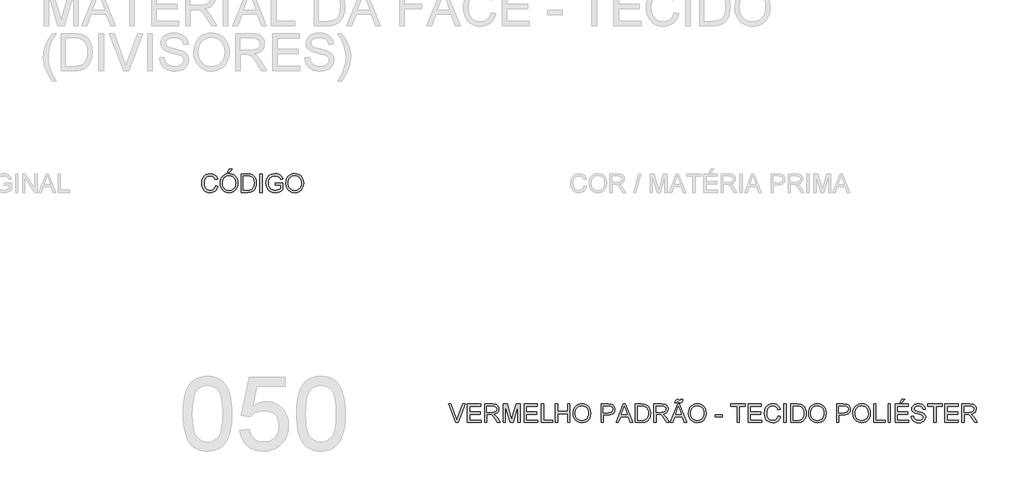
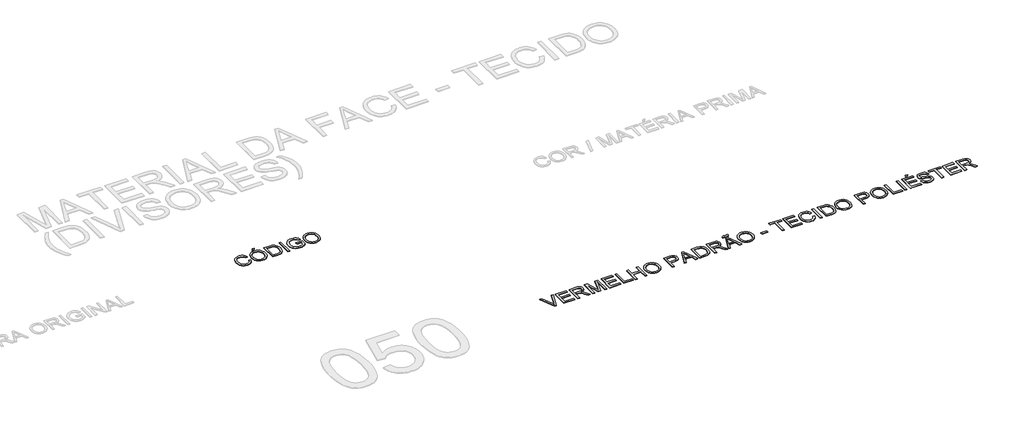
# One storey, part 54 of 67: 2 proxies.
"""IFC4 building model written with IfcOpenShell, lengths in millimetres."""

import ifcopenshell
import ifcopenshell.guid

model = None  # the IFC model being written
_history = None  # IfcOwnerHistory: only IFC2X3 demands one
_inside = {}  # id of a spatial element -> (the spatial element, [elements in it])
_under = {}  # id of a project, library or spatial element -> (it, [spatial elements below it])
_declared = {}  # id of a project -> (the project, [libraries it declares])
_typed = {}  # id of a type object -> (the type object, [elements of that type])
_made_of = {}  # id of a material, layer set ... -> (it, [elements and type objects made of it])


def new_model(schema):
    """Start an empty IFC model of exactly this schema.

    Asked for "IFC4X3", IfcOpenShell would pick the latest addendum, in which some entities
    have other attributes; the version numbers below select the first issue.
    IFC2X3 requires an IfcOwnerHistory on every rooted entity: one is made here for all.
    """
    global model, _history
    if schema == "IFC4X3":
        model = ifcopenshell.file(schema_version=(4, 3, 0, 0))
    else:
        model = ifcopenshell.file(schema=schema)
    _inside.clear()
    _under.clear()
    _declared.clear()
    _typed.clear()
    _made_of.clear()
    _history = None
    if model.schema == "IFC2X3":
        org = make("IfcOrganization", Name="unknown")
        user = make(
            "IfcPersonAndOrganization",
            ThePerson=make("IfcPerson", FamilyName="unknown"),
            TheOrganization=org,
        )
        app = make(
            "IfcApplication",
            ApplicationDeveloper=org,
            Version="unknown",
            ApplicationFullName="unknown",
            ApplicationIdentifier="unknown",
        )
        _history = make(
            "IfcOwnerHistory",
            OwningUser=user,
            OwningApplication=app,
            ChangeAction="ADDED",
            CreationDate=0,
        )
    return model


def make(cls, **values):
    """One entity of the class cls with the attributes given. An attribute that is None is left unset."""
    return model.create_entity(
        cls, **{name: value for name, value in values.items() if value is not None}
    )


def rooted(cls, **values):
    """An entity with a GlobalId (a new one), such as an element, a storey or a relation."""
    return make(cls, GlobalId=ifcopenshell.guid.new(), OwnerHistory=_history, **values)


def si_unit(unit_type, name, prefix=None):
    """IfcSIUnit, for example si_unit("LENGTHUNIT", "METRE", prefix="MILLI")."""
    return make("IfcSIUnit", UnitType=unit_type, Prefix=prefix, Name=name)


def assignment(units):
    """IfcUnitAssignment: the units of a project."""
    return None if units is None else make("IfcUnitAssignment", Units=units)


def point(xyz):
    """IfcCartesianPoint."""
    return None if xyz is None else make("IfcCartesianPoint", Coordinates=xyz)


def direction(xyz):
    """IfcDirection."""
    return None if xyz is None else make("IfcDirection", DirectionRatios=xyz)


def frame(location, z_axis=None, x_axis=None):
    """IfcAxis2Placement3D, a coordinate frame: its origin and axes. An axis left out is left unset."""
    return make(
        "IfcAxis2Placement3D",
        Location=point(location),
        Axis=direction(z_axis),
        RefDirection=direction(x_axis),
    )


def origin():
    """The frame at (0, 0, 0) with its axes left unset."""
    return frame((0.0, 0.0, 0.0))


def origin_with_axes():
    """The frame at (0, 0, 0) with the z axis (0, 0, 1) and the x axis (1, 0, 0) written out."""
    return frame((0.0, 0.0, 0.0), z_axis=(0.0, 0.0, 1.0), x_axis=(1.0, 0.0, 0.0))


def place(relative_to, where):
    """IfcLocalPlacement: puts the frame where relative to a parent placement (None: the world)."""
    return make(
        "IfcLocalPlacement", PlacementRelTo=relative_to, RelativePlacement=where
    )


def context(
    kind, dimensions, precision=None, world=None, true_north=None, identifier=None
):
    """IfcGeometricRepresentationContext, for example the 3D "Model" context."""
    return make(
        "IfcGeometricRepresentationContext",
        ContextIdentifier=identifier,
        ContextType=kind,
        CoordinateSpaceDimension=dimensions,
        Precision=precision,
        WorldCoordinateSystem=world,
        TrueNorth=true_north,
    )


def project(units=None, contexts=None):
    """IfcProject with its units and contexts."""
    return rooted(
        "IfcProject",
        Name="project",
        RepresentationContexts=contexts,
        UnitsInContext=assignment(units),
    )


def spatial(cls, under=None, at=None, **own):
    """A site, building, storey or space (cls), placed at a placement, below another one or the project."""
    s = rooted(cls, ObjectPlacement=at, **own)
    if under is not None:
        _under.setdefault(under.id(), (under, []))[1].append(s)
    return s


def polyline(points):
    """IfcPolyline through the points."""
    return make("IfcPolyline", Points=[point(p) for p in points])


def outline(outer, holes=None, kind="AREA"):
    """IfcArbitraryClosedProfileDef: a profile drawn as a closed curve; with holes, ...WithVoids."""
    if holes is None:
        return make("IfcArbitraryClosedProfileDef", ProfileType=kind, OuterCurve=outer)
    return make(
        "IfcArbitraryProfileDefWithVoids",
        ProfileType=kind,
        OuterCurve=outer,
        InnerCurves=holes,
    )


def extrude(swept, where, along, depth):
    """IfcExtrudedAreaSolid: the profile swept, set in the frame where, extruded along a direction by depth."""
    return make(
        "IfcExtrudedAreaSolid",
        SweptArea=swept,
        Position=where,
        ExtrudedDirection=direction(along),
        Depth=depth,
    )


def shape(context_of_items, identifier, shape_type, items):
    """IfcShapeRepresentation: the items that make up one representation, for example the "Body"."""
    return make(
        "IfcShapeRepresentation",
        ContextOfItems=context_of_items,
        RepresentationIdentifier=identifier,
        RepresentationType=shape_type,
        Items=items,
    )


def made_of(thing, what):
    """Note that an element or type object is made of a material, layer set ...; save() writes the relation."""
    if what is not None:
        _made_of.setdefault(what.id(), (what, []))[1].append(thing)
    return thing


def element(
    cls,
    number,
    at=None,
    inside=None,
    cuts=None,
    type_object=None,
    material=None,
    context=None,
    identifier="Body",
    shape_type=None,
    held_by="IfcProductDefinitionShape",
    body=None,
    shapes=None,
    **own,
):
    """One element of the class cls, such as IfcWall. Its Tag is "e" and its number.

    at: its placement. inside: the storey or other place that contains it. cuts: it is an
    opening in that element (IfcRelVoidsElement). A single representation is given by context,
    identifier, shape_type and body (its items); several are given by shapes. held_by: the class
    of the entity that holds the representations. save() writes the other relations.
    """
    e = rooted(cls, Tag="e%d" % number, ObjectPlacement=at, **own)
    if body is not None:
        shapes = [shape(context, identifier, shape_type, body)]
    if shapes is not None:
        e.Representation = make(held_by, Representations=shapes)
    if inside is not None:
        _inside.setdefault(inside.id(), (inside, []))[1].append(e)
    if cuts is not None:
        rooted(
            "IfcRelVoidsElement", RelatingBuildingElement=cuts, RelatedOpeningElement=e
        )
    if type_object is not None:
        _typed.setdefault(type_object.id(), (type_object, []))[1].append(e)
    return made_of(e, material)


def aggregate(whole, parts):
    """IfcRelAggregates: a whole, such as a stair, and the parts it consists of."""
    return rooted("IfcRelAggregates", RelatingObject=whole, RelatedObjects=parts)


def save(model, path):
    """Write the relations noted so far, then the file.

    IfcRelAggregates (storeys below a building ...), IfcRelContainedInSpatialStructure (elements
    in a storey), IfcRelDefinesByType, IfcRelAssociatesMaterial and IfcRelDeclares: one each for
    every whole, place, type object, material and project.
    """
    for whole, parts in _under.values():
        aggregate(whole, parts)
    for where, things in _inside.values():
        rooted(
            "IfcRelContainedInSpatialStructure",
            RelatedElements=things,
            RelatingStructure=where,
        )
    for kind, things in _typed.values():
        rooted("IfcRelDefinesByType", RelatedObjects=things, RelatingType=kind)
    for what, things in _made_of.values():
        rooted("IfcRelAssociatesMaterial", RelatedObjects=things, RelatingMaterial=what)
    for by, libraries in _declared.values():
        rooted("IfcRelDeclares", RelatingContext=by, RelatedDefinitions=libraries)
    model.write(path)


model = new_model("IFC4")

# Units and contexts
model_context = context("Model", 3, world=origin())
ifc_project = project(units=[si_unit("LENGTHUNIT", "METRE", prefix="MILLI")], contexts=[model_context])

# Site, building, storey
site = spatial("IfcSite", under=ifc_project)
building = spatial("IfcBuilding", under=site)
storey = spatial("IfcBuildingStorey", under=building, Name="Marelli - Linha COLAB - Planta Baixa", Elevation=0.0)

# Proxies
placement = place(None, origin())
element("IfcBuildingElementProxy", 1, Name="300mm Arial", ObjectType="300mm Arial", at=placement, inside=storey, context=model_context, shape_type="SweptSolid", body=[
    extrude(outline(polyline([(299.1753537, -23673.4390831), (336.84647, -23683.1511677), (329.3922611, -23706.5783531), (319.4640457, -23727.0486868), (307.061824, -23744.5621691), (292.1855958, -23759.1187997), (275.1710535, -23770.5622291), (256.3538895, -23778.7361071), (235.7341036, -23783.640434), (213.311696, -23785.2752096), (169.616512, -23780.3271968), (134.9160429, -23765.4831583), (108.3181746, -23741.2581289), (88.9307935, -23708.1671434), (77.0941903, -23669.2636224), (73.1486559, -23627.6009865), (77.6092251, -23583.6574821), (90.9909326, -23545.7104543), (112.5948028, -23514.9647166), (141.7218598, -23492.6250824), (176.2659791, -23479.0226457), (214.1210364, -23474.4885001), (255.4249874, -23480.3562179), (273.3937236, -23487.6908652), (289.5736336, -23497.9593714), (303.698003, -23510.8904235), (315.5001172, -23526.2127086), (332.1375805, -23564.0309777), (294.4664642, -23573.0072984), (281.4066533, -23545.5357104), (263.5643766, -23526.6909552), (240.7189047, -23515.7924511), (212.6495084, -23512.1596164), (180.294287, -23516.1879242), (153.7148128, -23528.2728478), (133.5456824, -23547.1451941), (120.4214922, -23571.5357704), (113.2202022, -23599.1085259), (110.8197722, -23627.5274101), (113.6616606, -23662.3290468), (122.1873258, -23692.421794), (136.7186646, -23716.6560205), (157.5775738, -23733.8820949), (182.5843524, -23744.1735937), (209.5592997, -23747.6040933), (241.0040132, -23742.931992), (267.2064083, -23728.9156879), (286.9892626, -23705.702334), (299.1753537, -23673.4390831)])), origin_with_axes(), (0.0, 0.0, 1.0), 10.0),
    extrude(outline(polyline([(374.5175863, -23633.8549804), (377.0283809, -23598.5061192), (384.5607648, -23567.213157), (397.1147379, -23539.9760937), (414.6903002, -23516.7949295), (436.2343895, -23498.2858666), (460.6939437, -23485.0651074), (488.0689626, -23477.1326519), (518.3594464, -23474.4885001), (557.8883668, -23479.454907), (593.333797, -23494.3541278), (622.7643567, -23518.1376988), (644.2486652, -23549.7571563), (657.3820524, -23587.68579), (661.7598481, -23630.3968896), (657.1521262, -23673.6782064), (643.3289602, -23712.140269), (621.0537054, -23743.8149087), (591.0897169, -23766.733957), (555.9477893, -23780.6398965), (518.1387172, -23785.2752096), (478.0027916, -23780.1524528), (442.3550262, -23764.7841825), (412.998043, -23740.5591531), (391.7344637, -23708.8661192), (378.8218057, -23672.3998164), (374.5175863, -23633.8549804)]), holes=[polyline([(412.1887026, -23634.2228624), (414.0717986, -23659.1974513), (419.7210865, -23681.3669401), (429.1365663, -23700.7313286), (442.318238, -23717.2906169), (458.3417982, -23730.5527628), (476.2829432, -23740.0257242), (496.1416732, -23745.709501), (517.917988, -23747.6040933), (540.0667834, -23745.6911069), (560.1600381, -23739.9521478), (578.1977522, -23730.3872159), (594.1799256, -23716.9963113), (607.2650283, -23700.0875351), (616.6115303, -23679.9689885), (622.2194315, -23656.6406715), (624.0887318, -23630.102584), (620.8881585, -23596.7540812), (611.2864384, -23567.9305269), (595.531892, -23544.358488), (573.8728395, -23526.7645316), (547.7440208, -23515.8108452), (518.5801756, -23512.1596164), (497.5603181, -23513.9185522), (478.0579739, -23519.1953595), (460.0731428, -23527.9900385), (443.605825, -23540.302589), (429.860834, -23556.7262208), (420.0429832, -23577.8541437), (414.1522728, -23603.6863575), (412.1887026, -23634.2228624)])]), origin_with_axes(), (0.0, 0.0, 1.0), 10.0),
    extrude(outline(polyline([(492.2398248, -23460.3618315), (520.493162, -23403.855157), (567.5820574, -23403.855157), (520.493162, -23460.3618315), (492.2398248, -23460.3618315)])), origin_with_axes(), (0.0, 0.0, 1.0), 10.0),
    extrude(outline(polyline([(713.5576331, -23780.5663201), (713.5576331, -23479.1973896), (817.5210849, -23479.1973896), (871.3054326, -23483.5383972), (895.3281269, -23491.9077126), (915.5984248, -23505.0962821), (936.4389398, -23528.0521186), (951.2829783, -23556.5997614), (960.1673285, -23590.1873876), (963.1287786, -23628.2631741), (961.1238217, -23660.6091985), (955.1089511, -23689.0740679), (945.9486894, -23713.3082943), (934.5075594, -23732.9623899), (921.3373839, -23748.477813), (906.9899861, -23760.2960221), (890.5180698, -23769.0608107), (870.9743388, -23775.4159721), (822.52428, -23780.5663201), (713.5576331, -23780.5663201)]), holes=[polyline([(751.2287494, -23742.8952038), (817.8889669, -23742.8952038), (845.4617224, -23741.5340404), (866.3758139, -23737.4505502), (882.1579515, -23730.8838566), (894.3348455, -23722.0730828), (907.4222475, -23705.7667134), (917.2538938, -23684.6594839), (923.4067202, -23658.6594239), (925.4576623, -23627.6745629), (921.4385515, -23586.6189322), (909.3812191, -23556.3054558), (891.5665335, -23535.4833349), (870.275363, -23522.9017706), (848.6071135, -23518.3768221), (816.8588973, -23516.8685059), (751.2287494, -23516.8685059), (751.2287494, -23742.8952038)])]), origin_with_axes(), (0.0, 0.0, 1.0), 10.0),
    extrude(outline(polyline([(1019.6354531, -23780.5663201), (1019.6354531, -23479.1973896), (1057.3065694, -23479.1973896), (1057.3065694, -23780.5663201), (1019.6354531, -23780.5663201)])), origin_with_axes(), (0.0, 0.0, 1.0), 10.0),
    extrude(outline(polyline([(1273.9154881, -23662.8440816), (1273.9154881, -23625.1729653), (1396.3466161, -23625.1729653), (1396.3466161, -23737.8184322), (1366.5941598, -23758.5117945), (1335.9036043, -23773.355833), (1304.3485262, -23782.2953654), (1272.0025017, -23785.2752096), (1229.7420575, -23780.5387289), (1191.5467094, -23766.3292869), (1159.8168873, -23743.1435241), (1136.9530213, -23711.4780814), (1123.1298553, -23673.4942654), (1118.5221334, -23631.3533828), (1123.1114612, -23588.9089976), (1136.8794449, -23549.4260625), (1159.2558673, -23516.3074859), (1189.6705112, -23492.9561762), (1226.7162281, -23479.1054191), (1268.9858694, -23474.4885001), (1300.0167157, -23477.1648416), (1327.920565, -23485.1938661), (1351.4190275, -23497.9961596), (1369.2337131, -23514.9923078), (1382.4130855, -23537.0008481), (1392.0056086, -23564.8403181), (1357.2775482, -23574.6259792), (1349.5244352, -23554.7695485), (1340.0974591, -23539.7875542), (1327.6262594, -23528.493577), (1310.7404758, -23519.7011973), (1290.6081337, -23514.0450116), (1268.3972582, -23512.1596164), (1242.3971982, -23514.1921644), (1220.1679286, -23520.2898085), (1201.792223, -23529.6891935), (1187.3528547, -23541.6269642), (1167.9654735, -23570.6528536), (1159.1363056, -23599.0901318), (1156.1932497, -23629.8082784), (1159.7341139, -23665.8331228), (1170.3567065, -23695.4752146), (1187.7391307, -23718.5230216), (1211.5594899, -23734.7650117), (1239.4357481, -23744.3943229), (1268.9858694, -23747.6040933), (1295.0778999, -23745.1852692), (1320.5261369, -23737.9287968), (1342.6266478, -23727.9316036), (1358.6754998, -23717.2906169), (1358.6754998, -23662.8440816), (1273.9154881, -23662.8440816)])), origin_with_axes(), (0.0, 0.0, 1.0), 10.0),
    extrude(outline(polyline([(1443.4355115, -23633.8549804), (1445.9463061, -23598.5061192), (1453.47869, -23567.213157), (1466.0326631, -23539.9760937), (1483.6082254, -23516.7949295), (1505.1523147, -23498.2858666), (1529.6118689, -23485.0651074), (1556.9868878, -23477.1326519), (1587.2773716, -23474.4885001), (1626.806292, -23479.454907), (1662.2517222, -23494.3541278), (1691.6822818, -23518.1376988), (1713.1665904, -23549.7571563), (1726.2999776, -23587.68579), (1730.6777733, -23630.3968896), (1726.0700513, -23673.6782064), (1712.2468854, -23712.140269), (1689.9716306, -23743.8149087), (1660.0076421, -23766.733957), (1624.8657145, -23780.6398965), (1587.0566424, -23785.2752096), (1546.9207167, -23780.1524528), (1511.2729514, -23764.7841825), (1481.9159682, -23740.5591531), (1460.6523889, -23708.8661192), (1447.7397308, -23672.3998164), (1443.4355115, -23633.8549804)]), holes=[polyline([(1481.1066278, -23634.2228624), (1482.9897238, -23659.1974513), (1488.6390117, -23681.3669401), (1498.0544915, -23700.7313286), (1511.2361632, -23717.2906169), (1527.2597234, -23730.5527628), (1545.2008684, -23740.0257242), (1565.0595984, -23745.709501), (1586.8359132, -23747.6040933), (1608.9847086, -23745.6911069), (1629.0779633, -23739.9521478), (1647.1156774, -23730.3872159), (1663.0978508, -23716.9963113), (1676.1829535, -23700.0875351), (1685.5294555, -23679.9689885), (1691.1373566, -23656.6406715), (1693.006657, -23630.102584), (1689.8060837, -23596.7540812), (1680.2043636, -23567.9305269), (1664.4498171, -23544.358488), (1642.7907647, -23526.7645316), (1616.661946, -23515.8108452), (1587.4981008, -23512.1596164), (1566.4782433, -23513.9185522), (1546.975899, -23519.1953595), (1528.991068, -23527.9900385), (1512.5237502, -23540.302589), (1498.7787591, -23556.7262208), (1488.9609084, -23577.8541437), (1483.070198, -23603.6863575), (1481.1066278, -23634.2228624)])]), origin_with_axes(), (0.0, 0.0, 1.0), 10.0),
])
element("IfcBuildingElementProxy", 2, Name="300mm Arial", ObjectType="300mm Arial", at=placement, inside=storey, context=model_context, shape_type="SweptSolid", body=[
    extrude(outline(polyline([(4210.5600671, -27530.5663201), (4090.6305367, -27229.1973896), (4130.9504034, -27229.1973896), (4211.2222547, -27446.3213432), (4227.4826389, -27495.2496485), (4243.5222939, -27446.3213432), (4324.0148745, -27229.1973896), (4364.3347411, -27229.1973896), (4249.4819822, -27530.5663201), (4210.5600671, -27530.5663201)])), origin_with_axes(), (0.0, 0.0, 1.0), 10.0),
    extrude(outline(polyline([(4399.3571071, -27530.5663201), (4399.3571071, -27229.1973896), (4615.9660258, -27229.1973896), (4615.9660258, -27266.8685059), (4437.0282234, -27266.8685059), (4437.0282234, -27356.3374072), (4606.5482468, -27356.3374072), (4606.5482468, -27394.0085235), (4437.0282234, -27394.0085235), (4437.0282234, -27492.8952038), (4620.6749154, -27492.8952038), (4620.6749154, -27530.5663201), (4399.3571071, -27530.5663201)])), origin_with_axes(), (0.0, 0.0, 1.0), 10.0),
    extrude(outline(polyline([(4677.1815898, -27530.5663201), (4677.1815898, -27229.1973896), (4807.0439341, -27229.1973896), (4841.9467384, -27231.2299376), (4867.3397931, -27237.3275817), (4885.8994398, -27248.5847708), (4900.3020199, -27266.0959537), (4909.545055, -27287.8101885), (4912.6260667, -27311.6765329), (4907.5217041, -27341.3646099), (4892.208616, -27365.9759154), (4880.6088369, -27376.0052983), (4866.2269501, -27384.0205273), (4829.1168538, -27394.0085235), (4850.527586, -27410.1217548), (4881.0617916, -27448.8965171), (4931.3144721, -27530.5663201), (4887.5365147, -27530.5663201), (4848.320294, -27468.0999573), (4819.9933804, -27426.750021), (4800.0909644, -27407.2154871), (4782.1751113, -27400.0417882), (4760.3229207, -27398.717413), (4714.8527061, -27398.717413), (4714.8527061, -27530.5663201), (4677.1815898, -27530.5663201)]), holes=[polyline([(4714.8527061, -27361.0462967), (4799.1712594, -27361.0462967), (4823.3870918, -27359.7127245), (4842.1766647, -27355.7120078), (4856.3217274, -27348.7774322), (4866.6040291, -27338.6422832), (4872.8672201, -27326.3826157), (4874.9549504, -27313.0744845), (4870.9726278, -27294.6987789), (4859.02566, -27279.8915286), (4838.4702536, -27270.1242616), (4808.6626149, -27266.8685059), (4714.8527061, -27266.8685059), (4714.8527061, -27361.0462967)])]), origin_with_axes(), (0.0, 0.0, 1.0), 10.0),
    extrude(outline(polyline([(4978.5505203, -27530.5663201), (4978.5505203, -27229.1973896), (5043.3713278, -27229.1973896), (5105.0283502, -27441.6124536), (5117.4627617, -27485.9790223), (5130.9272427, -27437.9336337), (5191.5541955, -27229.1973896), (5256.375003, -27229.1973896), (5256.375003, -27530.5663201), (5218.7038867, -27530.5663201), (5218.7038867, -27266.8685059), (5142.9937721, -27530.5663201), (5091.9317512, -27530.5663201), (5016.2216366, -27266.8685059), (5016.2216366, -27530.5663201), (4978.5505203, -27530.5663201)])), origin_with_axes(), (0.0, 0.0, 1.0), 10.0),
    extrude(outline(polyline([(5322.2994566, -27530.5663201), (5322.2994566, -27229.1973896), (5538.9083753, -27229.1973896), (5538.9083753, -27266.8685059), (5359.9705729, -27266.8685059), (5359.9705729, -27356.3374072), (5529.4905963, -27356.3374072), (5529.4905963, -27394.0085235), (5359.9705729, -27394.0085235), (5359.9705729, -27492.8952038), (5543.6172649, -27492.8952038), (5543.6172649, -27530.5663201), (5322.2994566, -27530.5663201)])), origin_with_axes(), (0.0, 0.0, 1.0), 10.0),
    extrude(outline(polyline([(5600.1239393, -27530.5663201), (5600.1239393, -27229.1973896), (5637.7950556, -27229.1973896), (5637.7950556, -27492.8952038), (5788.4795209, -27492.8952038), (5788.4795209, -27530.5663201), (5600.1239393, -27530.5663201)])), origin_with_axes(), (0.0, 0.0, 1.0), 10.0),
    extrude(outline(polyline([(5830.8595267, -27530.5663201), (5830.8595267, -27229.1973896), (5868.530643, -27229.1973896), (5868.530643, -27351.6285176), (6028.6328873, -27351.6285176), (6028.6328873, -27229.1973896), (6066.3040036, -27229.1973896), (6066.3040036, -27530.5663201), (6028.6328873, -27530.5663201), (6028.6328873, -27389.2996339), (5868.530643, -27389.2996339), (5868.530643, -27530.5663201), (5830.8595267, -27530.5663201)])), origin_with_axes(), (0.0, 0.0, 1.0), 10.0),
    extrude(outline(polyline([(6118.1017885, -27383.8549804), (6120.6125832, -27348.5061192), (6128.144967, -27317.213157), (6140.6989401, -27289.9760937), (6158.2745024, -27266.7949295), (6179.8185918, -27248.2858666), (6204.2781459, -27235.0651074), (6231.6531649, -27227.1326519), (6261.9436487, -27224.4885001), (6301.472569, -27229.454907), (6336.9179993, -27244.3541278), (6366.3485589, -27268.1376988), (6387.8328674, -27299.7571563), (6400.9662546, -27337.68579), (6405.3440504, -27380.3968896), (6400.7363284, -27423.6782064), (6386.9131624, -27462.140269), (6364.6379076, -27493.8149087), (6334.6739191, -27516.733957), (6299.5319915, -27530.6398965), (6261.7229195, -27535.2752096), (6221.5869938, -27530.1524528), (6185.9392284, -27514.7841825), (6156.5822452, -27490.5591531), (6135.3186659, -27458.8661192), (6122.4060079, -27422.3998164), (6118.1017885, -27383.8549804)]), holes=[polyline([(6155.7729048, -27384.2228624), (6157.6560008, -27409.1974513), (6163.3052887, -27431.3669401), (6172.7207685, -27450.7313286), (6185.9024403, -27467.2906169), (6201.9260004, -27480.5527628), (6219.8671455, -27490.0257242), (6239.7258754, -27495.709501), (6261.5021903, -27497.6040933), (6283.6509856, -27495.6911069), (6303.7442404, -27489.9521478), (6321.7819544, -27480.3872159), (6337.7641279, -27466.9963113), (6350.8492306, -27450.0875351), (6360.1957325, -27429.9689885), (6365.8036337, -27406.6406715), (6367.6729341, -27380.102584), (6364.4723607, -27346.7540812), (6354.8706406, -27317.9305269), (6339.1160942, -27294.358488), (6317.4570417, -27276.7645316), (6291.328223, -27265.8108452), (6262.1643779, -27262.1596164), (6241.1445204, -27263.9185522), (6221.6421761, -27269.1953595), (6203.657345, -27277.9900385), (6187.1900272, -27290.302589), (6173.4450362, -27306.7262208), (6163.6271854, -27327.8541437), (6157.736475, -27353.6863575), (6155.7729048, -27384.2228624)])]), origin_with_axes(), (0.0, 0.0, 1.0), 10.0),
    extrude(outline(polyline([(6574.8640738, -27530.5663201), (6574.8640738, -27229.1973896), (6686.5530475, -27229.1973896), (6731.5818037, -27232.0668692), (6751.6589636, -27237.4287493), (6768.1860622, -27246.1567496), (6781.4941934, -27258.6463433), (6791.9144509, -27275.2930036), (6798.6466914, -27294.9287051), (6800.8907716, -27316.3854225), (6799.3755576, -27334.8852883), (6794.8299157, -27351.9044291), (6787.2538459, -27367.4428449), (6776.6473481, -27381.5005356), (6762.0861189, -27393.1531978), (6742.6458547, -27401.476528), (6718.3265556, -27406.470526), (6689.1282215, -27408.1351921), (6612.5351901, -27408.1351921), (6612.5351901, -27530.5663201), (6574.8640738, -27530.5663201)]), holes=[polyline([(6612.5351901, -27370.4640758), (6691.3355134, -27370.4640758), (6724.7391986, -27367.005985), (6746.8121183, -27356.6317127), (6759.117771, -27339.9850525), (6763.2196553, -27317.7097977), (6760.8008312, -27300.7872259), (6753.5443588, -27286.5134045), (6742.3515491, -27275.7712502), (6728.1237129, -27269.4436799), (6690.4525966, -27266.8685059), (6612.5351901, -27266.8685059), (6612.5351901, -27370.4640758)])]), origin_with_axes(), (0.0, 0.0, 1.0), 10.0),
    extrude(outline(polyline([(6817.5926142, -27530.5663201), (6937.8900266, -27229.1973896), (6969.9693366, -27229.1973896), (7090.266749, -27530.5663201), (7050.4619171, -27530.5663201), (7015.954586, -27436.3885293), (6891.8312008, -27436.3885293), (6857.397446, -27530.5663201), (6817.5926142, -27530.5663201)]), holes=[polyline([(6905.6635638, -27398.717413), (7002.1957993, -27398.717413), (6975.0461081, -27324.6259792), (6953.9296816, -27266.8685059), (6935.1676998, -27318.1512561), (6905.6635638, -27398.717413)])]), origin_with_axes(), (0.0, 0.0, 1.0), 10.0),
    extrude(outline(polyline([(7130.5130393, -27530.5663201), (7130.5130393, -27229.1973896), (7234.4764911, -27229.1973896), (7288.2608388, -27233.5383972), (7312.2835331, -27241.9077126), (7332.553831, -27255.0962821), (7353.394346, -27278.0521186), (7368.2383845, -27306.5997614), (7377.1227347, -27340.1873876), (7380.0841848, -27378.2631741), (7378.0792279, -27410.6091985), (7372.0643573, -27439.0740679), (7362.9040956, -27463.3082943), (7351.4629656, -27482.9623899), (7338.2927901, -27498.477813), (7323.9453923, -27510.2960221), (7307.473476, -27519.0608107), (7287.929745, -27525.4159721), (7239.4796862, -27530.5663201), (7130.5130393, -27530.5663201)]), holes=[polyline([(7168.1841556, -27492.8952038), (7234.8443731, -27492.8952038), (7262.4171286, -27491.5340404), (7283.3312201, -27487.4505502), (7299.1133577, -27480.8838566), (7311.2902517, -27472.0730828), (7324.3776537, -27455.7667134), (7334.2093, -27434.6594839), (7340.3621264, -27408.6594239), (7342.4130685, -27377.6745629), (7338.3939577, -27336.6189322), (7326.3366253, -27306.3054558), (7308.5219397, -27285.4833349), (7287.2307692, -27272.9017706), (7265.5625197, -27268.3768221), (7233.8143035, -27266.8685059), (7168.1841556, -27266.8685059), (7168.1841556, -27492.8952038)])]), origin_with_axes(), (0.0, 0.0, 1.0), 10.0),
    extrude(outline(polyline([(7431.8819697, -27530.5663201), (7431.8819697, -27229.1973896), (7561.744314, -27229.1973896), (7596.6471183, -27231.2299376), (7622.040173, -27237.3275817), (7640.5998197, -27248.5847708), (7655.0023998, -27266.0959537), (7664.2454349, -27287.8101885), (7667.3264466, -27311.6765329), (7662.2220839, -27341.3646099), (7646.9089959, -27365.9759154), (7635.3092167, -27376.0052983), (7620.92733, -27384.0205273), (7583.8172337, -27394.0085235), (7605.2279658, -27410.1217548), (7635.7621714, -27448.8965171), (7686.014852, -27530.5663201), (7642.2368946, -27530.5663201), (7603.0206739, -27468.0999573), (7574.6937602, -27426.750021), (7554.7913443, -27407.2154871), (7536.8754911, -27400.0417882), (7515.0233006, -27398.717413), (7469.553086, -27398.717413), (7469.553086, -27530.5663201), (7431.8819697, -27530.5663201)]), holes=[polyline([(7469.553086, -27361.0462967), (7553.8716393, -27361.0462967), (7578.0874716, -27359.7127245), (7596.8770446, -27355.7120078), (7611.0221073, -27348.7774322), (7621.304409, -27338.6422832), (7627.5676, -27326.3826157), (7629.6553303, -27313.0744845), (7625.6730077, -27294.6987789), (7613.7260399, -27279.8915286), (7593.1706335, -27270.1242616), (7563.3629948, -27266.8685059), (7469.553086, -27266.8685059), (7469.553086, -27361.0462967)])]), origin_with_axes(), (0.0, 0.0, 1.0), 10.0),
    extrude(outline(polyline([(7775.630906, -27210.3618315), (7778.4819915, -27187.2036599), (7787.3295535, -27169.2326244), (7800.6652758, -27157.6995239), (7817.2751479, -27153.855157), (7831.1810873, -27156.8901835), (7847.4414715, -27165.9952628), (7862.6717861, -27172.6907152), (7870.6548254, -27168.9015306), (7874.5175863, -27153.855157), (7907.4798131, -27153.855157), (7904.1964663, -27178.5768271), (7895.5236482, -27196.2351629), (7882.6201873, -27206.8301643), (7866.6449116, -27210.3618315), (7852.6470017, -27207.4923519), (7836.84647, -27198.8839132), (7820.9539678, -27191.5262733), (7811.9776471, -27196.3087393), (7808.5931328, -27210.3618315), (7775.630906, -27210.3618315)])), origin_with_axes(), (0.0, 0.0, 1.0), 10.0),
    extrude(outline(polyline([(7698.1549578, -27530.5663201), (7818.4523702, -27229.1973896), (7850.5316802, -27229.1973896), (7970.8290926, -27530.5663201), (7931.0242608, -27530.5663201), (7896.5169296, -27436.3885293), (7772.3935445, -27436.3885293), (7737.9597897, -27530.5663201), (7698.1549578, -27530.5663201)]), holes=[polyline([(7786.2259075, -27398.717413), (7882.758143, -27398.717413), (7855.6084518, -27324.6259792), (7834.4920252, -27266.8685059), (7815.7300435, -27318.1512561), (7786.2259075, -27398.717413)])]), origin_with_axes(), (0.0, 0.0, 1.0), 10.0),
    extrude(outline(polyline([(7996.9487143, -27383.8549804), (7999.4595089, -27348.5061192), (8006.9918928, -27317.213157), (8019.5458659, -27289.9760937), (8037.1214282, -27266.7949295), (8058.6655175, -27248.2858666), (8083.1250717, -27235.0651074), (8110.5000906, -27227.1326519), (8140.7905744, -27224.4885001), (8180.3194948, -27229.454907), (8215.764925, -27244.3541278), (8245.1954847, -27268.1376988), (8266.6797932, -27299.7571563), (8279.8131804, -27337.68579), (8284.1909761, -27380.3968896), (8279.5832542, -27423.6782064), (8265.7600882, -27462.140269), (8243.4848334, -27493.8149087), (8213.5208449, -27516.733957), (8178.3789173, -27530.6398965), (8140.5698452, -27535.2752096), (8100.4339195, -27530.1524528), (8064.7861542, -27514.7841825), (8035.429171, -27490.5591531), (8014.1655917, -27458.8661192), (8001.2529336, -27422.3998164), (7996.9487143, -27383.8549804)]), holes=[polyline([(8034.6198306, -27384.2228624), (8036.5029266, -27409.1974513), (8042.1522145, -27431.3669401), (8051.5676943, -27450.7313286), (8064.749366, -27467.2906169), (8080.7729262, -27480.5527628), (8098.7140712, -27490.0257242), (8118.5728012, -27495.709501), (8140.349116, -27497.6040933), (8162.4979114, -27495.6911069), (8182.5911661, -27489.9521478), (8200.6288802, -27480.3872159), (8216.6110536, -27466.9963113), (8229.6961563, -27450.0875351), (8239.0426583, -27429.9689885), (8244.6505594, -27406.6406715), (8246.5198598, -27380.102584), (8243.3192865, -27346.7540812), (8233.7175664, -27317.9305269), (8217.96302, -27294.358488), (8196.3039675, -27276.7645316), (8170.1751488, -27265.8108452), (8141.0113036, -27262.1596164), (8119.9914461, -27263.9185522), (8100.4891018, -27269.1953595), (8082.5042708, -27277.9900385), (8066.036953, -27290.302589), (8052.291962, -27306.7262208), (8042.4741112, -27327.8541437), (8036.5834008, -27353.6863575), (8034.6198306, -27384.2228624)])]), origin_with_axes(), (0.0, 0.0, 1.0), 10.0),
    extrude(outline(polyline([(8430.1665518, -27441.0974188), (8430.1665518, -27403.4263025), (8547.8887903, -27403.4263025), (8547.8887903, -27441.0974188), (8430.1665518, -27441.0974188)])), origin_with_axes(), (0.0, 0.0, 1.0), 10.0),
    extrude(outline(polyline([(8788.0421567, -27530.5663201), (8788.0421567, -27266.8685059), (8689.1554764, -27266.8685059), (8689.1554764, -27229.1973896), (8924.5999533, -27229.1973896), (8924.5999533, -27266.8685059), (8825.713273, -27266.8685059), (8825.713273, -27530.5663201), (8788.0421567, -27530.5663201)])), origin_with_axes(), (0.0, 0.0, 1.0), 10.0),
    extrude(outline(polyline([(8966.9799592, -27530.5663201), (8966.9799592, -27229.1973896), (9183.5888779, -27229.1973896), (9183.5888779, -27266.8685059), (9004.6510755, -27266.8685059), (9004.6510755, -27356.3374072), (9174.1710989, -27356.3374072), (9174.1710989, -27394.0085235), (9004.6510755, -27394.0085235), (9004.6510755, -27492.8952038), (9188.2977675, -27492.8952038), (9188.2977675, -27530.5663201), (8966.9799592, -27530.5663201)])), origin_with_axes(), (0.0, 0.0, 1.0), 10.0),
    extrude(outline(polyline([(9456.7044712, -27423.4390831), (9494.3755875, -27433.1511677), (9486.9213785, -27456.5783531), (9476.9931632, -27477.0486868), (9464.5909414, -27494.5621691), (9449.7147133, -27509.1187997), (9432.700171, -27520.5622291), (9413.8830069, -27528.7361071), (9393.2632211, -27533.640434), (9370.8408135, -27535.2752096), (9327.1456295, -27530.3271968), (9292.4451603, -27515.4831583), (9265.8472921, -27491.2581289), (9246.4599109, -27458.1671434), (9234.6233077, -27419.2636224), (9230.6777733, -27377.6009865), (9235.1383425, -27333.6574821), (9248.5200501, -27295.7104543), (9270.1239203, -27264.9647166), (9299.2509772, -27242.6250824), (9333.7950966, -27229.0226457), (9371.6501539, -27224.4885001), (9412.9541049, -27230.3562179), (9430.9228411, -27237.6908652), (9447.1027511, -27247.9593714), (9461.2271204, -27260.8904235), (9473.0292347, -27276.2127086), (9489.6666979, -27314.0309777), (9451.9955816, -27323.0072984), (9438.9357708, -27295.5357104), (9421.093494, -27276.6909552), (9398.2480221, -27265.7924511), (9370.1786259, -27262.1596164), (9337.8234044, -27266.1879242), (9311.2439303, -27278.2728478), (9291.0747999, -27297.1451941), (9277.9506097, -27321.5357704), (9270.7493197, -27349.1085259), (9268.3488896, -27377.5274101), (9271.190778, -27412.3290468), (9279.7164433, -27442.421794), (9294.2477821, -27466.6560205), (9315.1066912, -27483.8820949), (9340.1134698, -27494.1735937), (9367.0884171, -27497.6040933), (9398.5331307, -27492.931992), (9424.7355258, -27478.9156879), (9444.5183801, -27455.702334), (9456.7044712, -27423.4390831)])), origin_with_axes(), (0.0, 0.0, 1.0), 10.0),
    extrude(outline(polyline([(9550.8822619, -27530.5663201), (9550.8822619, -27229.1973896), (9588.5533782, -27229.1973896), (9588.5533782, -27530.5663201), (9550.8822619, -27530.5663201)])), origin_with_axes(), (0.0, 0.0, 1.0), 10.0),
    extrude(outline(polyline([(9663.8956109, -27530.5663201), (9663.8956109, -27229.1973896), (9767.8590627, -27229.1973896), (9821.6434104, -27233.5383972), (9845.6661047, -27241.9077126), (9865.9364026, -27255.0962821), (9886.7769176, -27278.0521186), (9901.6209561, -27306.5997614), (9910.5053063, -27340.1873876), (9913.4667564, -27378.2631741), (9911.4617995, -27410.6091985), (9905.4469289, -27439.0740679), (9896.2866672, -27463.3082943), (9884.8455372, -27482.9623899), (9871.6753617, -27498.477813), (9857.3279639, -27510.2960221), (9840.8560476, -27519.0608107), (9821.3123166, -27525.4159721), (9772.8622578, -27530.5663201), (9663.8956109, -27530.5663201)]), holes=[polyline([(9701.5667272, -27492.8952038), (9768.2269447, -27492.8952038), (9795.7997002, -27491.5340404), (9816.7137916, -27487.4505502), (9832.4959292, -27480.8838566), (9844.6728233, -27472.0730828), (9857.7602253, -27455.7667134), (9867.5918716, -27434.6594839), (9873.7446979, -27408.6594239), (9875.7956401, -27377.6745629), (9871.7765293, -27336.6189322), (9859.7191969, -27306.3054558), (9841.9045113, -27285.4833349), (9820.6133408, -27272.9017706), (9798.9450913, -27268.3768221), (9767.1968751, -27266.8685059), (9701.5667272, -27266.8685059), (9701.5667272, -27492.8952038)])]), origin_with_axes(), (0.0, 0.0, 1.0), 10.0),
    extrude(outline(polyline([(9951.1378727, -27383.8549804), (9953.6486673, -27348.5061192), (9961.1810512, -27317.213157), (9973.7350242, -27289.9760937), (9991.3105866, -27266.7949295), (10012.8546759, -27248.2858666), (10037.3142301, -27235.0651074), (10064.689249, -27227.1326519), (10094.9797328, -27224.4885001), (10134.5086532, -27229.454907), (10169.9540834, -27244.3541278), (10199.384643, -27268.1376988), (10220.8689515, -27299.7571563), (10234.0023388, -27337.68579), (10238.3801345, -27380.3968896), (10233.7724125, -27423.6782064), (10219.9492466, -27462.140269), (10197.6739918, -27493.8149087), (10167.7100032, -27516.733957), (10132.5680757, -27530.6398965), (10094.7590036, -27535.2752096), (10054.6230779, -27530.1524528), (10018.9753126, -27514.7841825), (9989.6183294, -27490.5591531), (9968.3547501, -27458.8661192), (9955.442092, -27422.3998164), (9951.1378727, -27383.8549804)]), holes=[polyline([(9988.808989, -27384.2228624), (9990.692085, -27409.1974513), (9996.3413728, -27431.3669401), (10005.7568527, -27450.7313286), (10018.9385244, -27467.2906169), (10034.9620845, -27480.5527628), (10052.9032296, -27490.0257242), (10072.7619596, -27495.709501), (10094.5382744, -27497.6040933), (10116.6870698, -27495.6911069), (10136.7803245, -27489.9521478), (10154.8180386, -27480.3872159), (10170.800212, -27466.9963113), (10183.8853147, -27450.0875351), (10193.2318167, -27429.9689885), (10198.8397178, -27406.6406715), (10200.7090182, -27380.102584), (10197.5084449, -27346.7540812), (10187.9067248, -27317.9305269), (10172.1521783, -27294.358488), (10150.4931259, -27276.7645316), (10124.3643072, -27265.8108452), (10095.200462, -27262.1596164), (10074.1806045, -27263.9185522), (10054.6782602, -27269.1953595), (10036.6934292, -27277.9900385), (10020.2261114, -27290.302589), (10006.4811203, -27306.7262208), (9996.6632696, -27327.8541437), (9990.7725591, -27353.6863575), (9988.808989, -27384.2228624)])]), origin_with_axes(), (0.0, 0.0, 1.0), 10.0),
    extrude(outline(polyline([(10407.9001579, -27530.5663201), (10407.9001579, -27229.1973896), (10519.5891316, -27229.1973896), (10564.6178878, -27232.0668692), (10584.6950477, -27237.4287493), (10601.2221464, -27246.1567496), (10614.5302775, -27258.6463433), (10624.9505351, -27275.2930036), (10631.6827756, -27294.9287051), (10633.9268557, -27316.3854225), (10632.4116418, -27334.8852883), (10627.8659999, -27351.9044291), (10620.28993, -27367.4428449), (10609.6834323, -27381.5005356), (10595.122203, -27393.1531978), (10575.6819388, -27401.476528), (10551.3626397, -27406.470526), (10522.1643056, -27408.1351921), (10445.5712742, -27408.1351921), (10445.5712742, -27530.5663201), (10407.9001579, -27530.5663201)]), holes=[polyline([(10445.5712742, -27370.4640758), (10524.3715976, -27370.4640758), (10557.7752827, -27367.005985), (10579.8482024, -27356.6317127), (10592.1538552, -27339.9850525), (10596.2557394, -27317.7097977), (10593.8369153, -27300.7872259), (10586.580443, -27286.5134045), (10575.3876333, -27275.7712502), (10561.1597971, -27269.4436799), (10523.4886808, -27266.8685059), (10445.5712742, -27266.8685059), (10445.5712742, -27370.4640758)])]), origin_with_axes(), (0.0, 0.0, 1.0), 10.0),
    extrude(outline(polyline([(10671.597972, -27383.8549804), (10674.1087667, -27348.5061192), (10681.6411505, -27317.213157), (10694.1951236, -27289.9760937), (10711.7706859, -27266.7949295), (10733.3147753, -27248.2858666), (10757.7743294, -27235.0651074), (10785.1493484, -27227.1326519), (10815.4398322, -27224.4885001), (10854.9687525, -27229.454907), (10890.4141828, -27244.3541278), (10919.8447424, -27268.1376988), (10941.3290509, -27299.7571563), (10954.4624381, -27337.68579), (10958.8402339, -27380.3968896), (10954.2325119, -27423.6782064), (10940.4093459, -27462.140269), (10918.1340911, -27493.8149087), (10888.1701026, -27516.733957), (10853.028175, -27530.6398965), (10815.219103, -27535.2752096), (10775.0831773, -27530.1524528), (10739.435412, -27514.7841825), (10710.0784287, -27490.5591531), (10688.8148494, -27458.8661192), (10675.9021914, -27422.3998164), (10671.597972, -27383.8549804)]), holes=[polyline([(10709.2690883, -27384.2228624), (10711.1521843, -27409.1974513), (10716.8014722, -27431.3669401), (10726.216952, -27450.7313286), (10739.3986238, -27467.2906169), (10755.4221839, -27480.5527628), (10773.363329, -27490.0257242), (10793.2220589, -27495.709501), (10814.9983738, -27497.6040933), (10837.1471691, -27495.6911069), (10857.2404239, -27489.9521478), (10875.2781379, -27480.3872159), (10891.2603114, -27466.9963113), (10904.3454141, -27450.0875351), (10913.691916, -27429.9689885), (10919.2998172, -27406.6406715), (10921.1691176, -27380.102584), (10917.9685442, -27346.7540812), (10908.3668241, -27317.9305269), (10892.6122777, -27294.358488), (10870.9532252, -27276.7645316), (10844.8244065, -27265.8108452), (10815.6605614, -27262.1596164), (10794.6407039, -27263.9185522), (10775.1383596, -27269.1953595), (10757.1535285, -27277.9900385), (10740.6862107, -27290.302589), (10726.9412197, -27306.7262208), (10717.1233689, -27327.8541437), (10711.2326585, -27353.6863575), (10709.2690883, -27384.2228624)])]), origin_with_axes(), (0.0, 0.0, 1.0), 10.0),
    extrude(outline(polyline([(11010.6380188, -27530.5663201), (11010.6380188, -27229.1973896), (11048.3091351, -27229.1973896), (11048.3091351, -27492.8952038), (11198.9936003, -27492.8952038), (11198.9936003, -27530.5663201), (11010.6380188, -27530.5663201)])), origin_with_axes(), (0.0, 0.0, 1.0), 10.0),
    extrude(outline(polyline([(11246.0824957, -27530.5663201), (11246.0824957, -27229.1973896), (11283.753612, -27229.1973896), (11283.753612, -27530.5663201), (11246.0824957, -27530.5663201)])), origin_with_axes(), (0.0, 0.0, 1.0), 10.0),
    extrude(outline(polyline([(11359.0958446, -27530.5663201), (11359.0958446, -27229.1973896), (11575.7047634, -27229.1973896), (11575.7047634, -27266.8685059), (11396.7669609, -27266.8685059), (11396.7669609, -27356.3374072), (11566.2869843, -27356.3374072), (11566.2869843, -27394.0085235), (11396.7669609, -27394.0085235), (11396.7669609, -27492.8952038), (11580.4136529, -27492.8952038), (11580.4136529, -27530.5663201), (11359.0958446, -27530.5663201)])), origin_with_axes(), (0.0, 0.0, 1.0), 10.0),
    extrude(outline(polyline([(11443.8558563, -27210.3618315), (11472.1091935, -27153.855157), (11519.1980889, -27153.855157), (11472.1091935, -27210.3618315), (11443.8558563, -27210.3618315)])), origin_with_axes(), (0.0, 0.0, 1.0), 10.0),
    extrude(outline(polyline([(11622.7936588, -27426.9707502), (11660.4647751, -27426.9707502), (11664.7873885, -27447.8756446), (11672.6048809, -27464.6786547), (11684.8001691, -27478.0143771), (11702.2561697, -27488.517408), (11723.5933254, -27495.332422), (11747.4320787, -27497.6040933), (11768.4197466, -27495.884245), (11786.7954522, -27490.7247), (11801.685476, -27482.5577197), (11812.2160981, -27471.8155654), (11818.4792891, -27459.4823216), (11820.5670194, -27446.5420724), (11819.0035209, -27433.932917), (11814.3130255, -27423.0344129), (11804.7848818, -27413.7361954), (11788.7084386, -27405.9279001), (11733.8572331, -27391.5437141), (11697.8507828, -27382.0247675), (11674.8121729, -27372.9656733), (11656.0593882, -27360.2921386), (11642.7696511, -27344.9330653), (11634.8509912, -27327.2195472), (11632.2114378, -27307.4826782), (11635.4763906, -27285.4189555), (11645.2712487, -27264.845155), (11661.3384948, -27247.4075484), (11683.4206116, -27234.7524077), (11709.9265093, -27227.054477), (11739.2650984, -27224.4885001), (11771.0501028, -27227.1740386), (11798.8619817, -27235.2306543), (11821.7074536, -27248.4928003), (11838.5932371, -27266.7949295), (11849.2802091, -27288.9966079), (11853.5292461, -27313.9574013), (11815.8581298, -27313.9574013), (11808.9419483, -27291.4798114), (11794.5209741, -27275.2562154), (11771.9882019, -27265.4337661), (11740.7366264, -27262.1596164), (11708.7492869, -27265.3969779), (11686.8051259, -27275.1090626), (11674.1131971, -27289.4012781), (11669.8825542, -27306.3790322), (11672.8807924, -27320.8551887), (11681.8755072, -27332.4986539), (11703.1390865, -27342.9097143), (11743.3853768, -27353.541504), (11784.919254, -27363.6398648), (11810.0455943, -27372.4506385), (11831.5207058, -27386.1174547), (11846.5027, -27402.9848441), (11855.3042768, -27422.868866), (11858.2381357, -27445.5855792), (11854.8628184, -27468.8081301), (11844.7368665, -27490.6511236), (11828.2741472, -27509.4498935), (11805.8885278, -27523.539774), (11778.9687628, -27532.3413507), (11748.9036067, -27535.2752096), (11711.9958455, -27532.1114244), (11681.6179898, -27522.620069), (11657.4205516, -27506.764355), (11639.054043, -27484.5074943), (11627.263425, -27457.3945912), (11622.7936588, -27426.9707502)])), origin_with_axes(), (0.0, 0.0, 1.0), 10.0),
    extrude(outline(polyline([(11990.0870428, -27530.5663201), (11990.0870428, -27266.8685059), (11891.2003624, -27266.8685059), (11891.2003624, -27229.1973896), (12126.6448394, -27229.1973896), (12126.6448394, -27266.8685059), (12027.7581591, -27266.8685059), (12027.7581591, -27530.5663201), (11990.0870428, -27530.5663201)])), origin_with_axes(), (0.0, 0.0, 1.0), 10.0),
    extrude(outline(polyline([(12169.0248452, -27530.5663201), (12169.0248452, -27229.1973896), (12385.633764, -27229.1973896), (12385.633764, -27266.8685059), (12206.6959615, -27266.8685059), (12206.6959615, -27356.3374072), (12376.2159849, -27356.3374072), (12376.2159849, -27394.0085235), (12206.6959615, -27394.0085235), (12206.6959615, -27492.8952038), (12390.3426535, -27492.8952038), (12390.3426535, -27530.5663201), (12169.0248452, -27530.5663201)])), origin_with_axes(), (0.0, 0.0, 1.0), 10.0),
    extrude(outline(polyline([(12446.849328, -27530.5663201), (12446.849328, -27229.1973896), (12576.7116723, -27229.1973896), (12611.6144766, -27231.2299376), (12637.0075313, -27237.3275817), (12655.5671779, -27248.5847708), (12669.969758, -27266.0959537), (12679.2127932, -27287.8101885), (12682.2938049, -27311.6765329), (12677.1894422, -27341.3646099), (12661.8763541, -27365.9759154), (12650.276575, -27376.0052983), (12635.8946882, -27384.0205273), (12598.784592, -27394.0085235), (12620.1953241, -27410.1217548), (12650.7295297, -27448.8965171), (12700.9822102, -27530.5663201), (12657.2042528, -27530.5663201), (12617.9880321, -27468.0999573), (12589.6611185, -27426.750021), (12569.7587026, -27407.2154871), (12551.8428494, -27400.0417882), (12529.9906589, -27398.717413), (12484.5204443, -27398.717413), (12484.5204443, -27530.5663201), (12446.849328, -27530.5663201)]), holes=[polyline([(12484.5204443, -27361.0462967), (12568.8389976, -27361.0462967), (12593.0548299, -27359.7127245), (12611.8444028, -27355.7120078), (12625.9894655, -27348.7774322), (12636.2717673, -27338.6422832), (12642.5349582, -27326.3826157), (12644.6226886, -27313.0744845), (12640.640366, -27294.6987789), (12628.6933982, -27279.8915286), (12608.1379917, -27270.1242616), (12578.330353, -27266.8685059), (12484.5204443, -27266.8685059), (12484.5204443, -27361.0462967)])]), origin_with_axes(), (0.0, 0.0, 1.0), 10.0),
])

save(model, "model.ifc")
